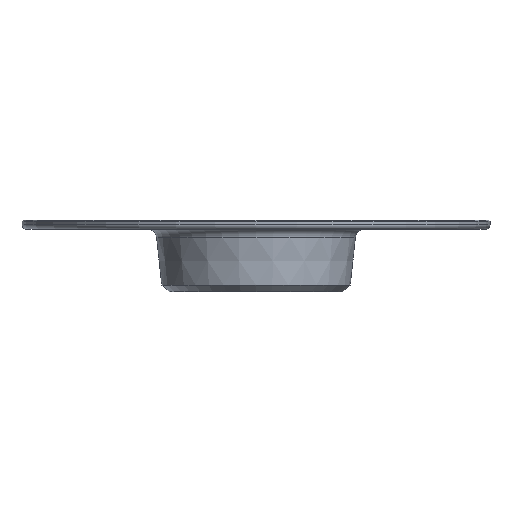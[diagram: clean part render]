
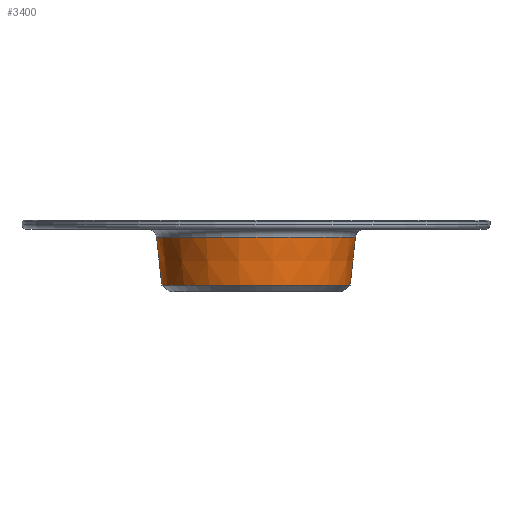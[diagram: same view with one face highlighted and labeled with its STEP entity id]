
A CAD part, front view. The second image highlights one B-rep face of the part: STEP entity #3400.
In plain terms, the highlighted conical face has half-angle 6.116 degrees and reference radius 43.5 mm.
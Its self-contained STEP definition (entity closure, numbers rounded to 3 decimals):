
#296=CONICAL_SURFACE('',#3632,43.5,0.107);
#401=FACE_OUTER_BOUND('',#605,.T.);
#605=EDGE_LOOP('',(#2377,#2378,#2379,#2380,#2381,#2382));
#848=CIRCLE('',#3630,42.32);
#849=CIRCLE('',#3631,42.32);
#850=CIRCLE('',#3633,44.617);
#851=CIRCLE('',#3634,44.617);
#1098=LINE('',#5303,#1340);
#1340=VECTOR('',#4076,43.5);
#1589=VERTEX_POINT('',#5296);
#1590=VERTEX_POINT('',#5298);
#1591=VERTEX_POINT('',#5302);
#1592=VERTEX_POINT('',#5304);
#1882=EDGE_CURVE('',#1589,#1590,#848,.T.);
#1883=EDGE_CURVE('',#1590,#1589,#849,.T.);
#1884=EDGE_CURVE('',#1590,#1591,#1098,.T.);
#1885=EDGE_CURVE('',#1592,#1591,#850,.T.);
#1886=EDGE_CURVE('',#1591,#1592,#851,.T.);
#2377=ORIENTED_EDGE('',*,*,#1882,.F.);
#2378=ORIENTED_EDGE('',*,*,#1883,.F.);
#2379=ORIENTED_EDGE('',*,*,#1884,.T.);
#2380=ORIENTED_EDGE('',*,*,#1885,.F.);
#2381=ORIENTED_EDGE('',*,*,#1886,.F.);
#2382=ORIENTED_EDGE('',*,*,#1884,.F.);
#3400=ADVANCED_FACE('',(#401),#296,.T.);
#3630=AXIS2_PLACEMENT_3D('',#5299,#4070,#4071);
#3631=AXIS2_PLACEMENT_3D('',#5300,#4072,#4073);
#3632=AXIS2_PLACEMENT_3D('',#5301,#4074,#4075);
#3633=AXIS2_PLACEMENT_3D('',#5305,#4077,#4078);
#3634=AXIS2_PLACEMENT_3D('',#5306,#4079,#4080);
#4070=DIRECTION('center_axis',(0.,0.,-1.));
#4071=DIRECTION('ref_axis',(1.,0.,0.));
#4072=DIRECTION('center_axis',(0.,0.,-1.));
#4073=DIRECTION('ref_axis',(1.,0.,0.));
#4074=DIRECTION('center_axis',(0.,0.,1.));
#4075=DIRECTION('ref_axis',(-1.,0.,0.));
#4076=DIRECTION('',(0.107,0.,0.994));
#4077=DIRECTION('center_axis',(0.,0.,1.));
#4078=DIRECTION('ref_axis',(1.,0.,0.));
#4079=DIRECTION('center_axis',(0.,0.,1.));
#4080=DIRECTION('ref_axis',(1.,0.,0.));
#5296=CARTESIAN_POINT('',(-42.32,0.,-25.017));
#5298=CARTESIAN_POINT('',(42.32,0.,-25.017));
#5299=CARTESIAN_POINT('Origin',(0.,0.,-25.017));
#5300=CARTESIAN_POINT('Origin',(0.,0.,-25.017));
#5301=CARTESIAN_POINT('Origin',(0.,0.,-14.));
#5302=CARTESIAN_POINT('',(44.617,0.,-3.574));
#5303=CARTESIAN_POINT('',(43.5,0.,-14.));
#5304=CARTESIAN_POINT('',(-44.617,0.,-3.574));
#5305=CARTESIAN_POINT('Origin',(0.,0.,-3.574));
#5306=CARTESIAN_POINT('Origin',(0.,0.,-3.574));
